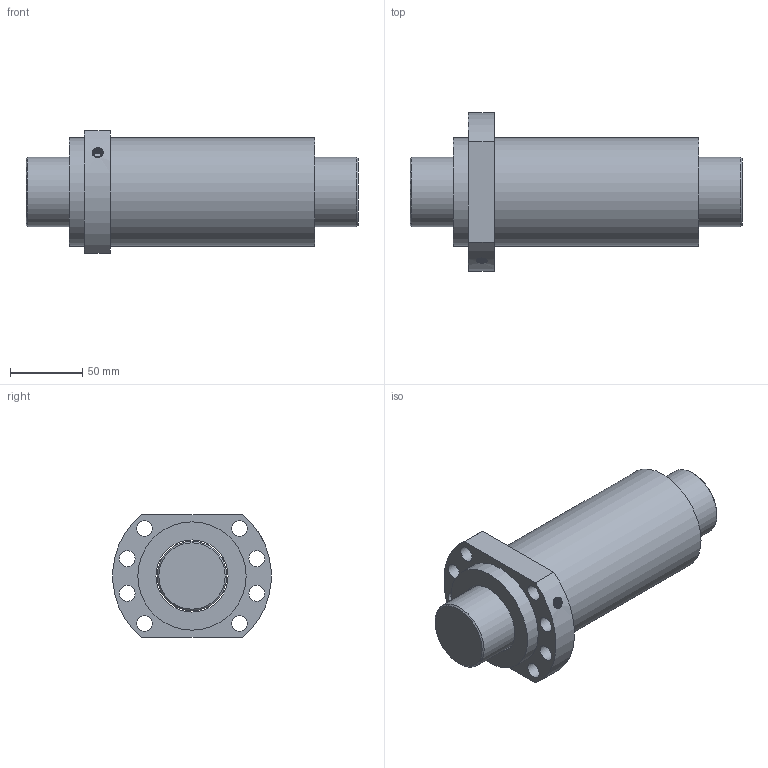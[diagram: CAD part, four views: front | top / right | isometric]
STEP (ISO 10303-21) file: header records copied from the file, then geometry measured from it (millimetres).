
FILE_DESCRIPTION (( 'STEP AP203' ), '1' );
FILE_NAME ('SFH5050-2.8.STEP', '2023-08-16T01:48:26', ( '' ), ( '' ), 'SwSTEP 2.0', 'SolidWorks 2022', '' );
FILE_SCHEMA (( 'CONFIG_CONTROL_DESIGN' ));
Length unit declared in the file: millimetre
Products named in the file (1): SFH5050-2.8
Bounding box: 230 x 109.65 x 85 mm (x, y, z)
Volume: 889111 mm3; surface area: 123291.5 mm2
Topology: 2 solids, 2 shells, 30 faces, 70 edges, 47 vertices
Faces by surface type: cylinder 17, plane 9, bspline 2, cone 2
Full cylindrical faces by diameter (mm): 3 x1, 11 x8, 48 x1, 50 x1, 75 x2
Entity records: 2911 total; most frequent: CARTESIAN_POINT 2184, DIRECTION 132, ORIENTED_EDGE 104, EDGE_LOOP 68, AXIS2_PLACEMENT_3D 62, EDGE_CURVE 52, VERTEX_POINT 44, FACE_OUTER_BOUND 43
